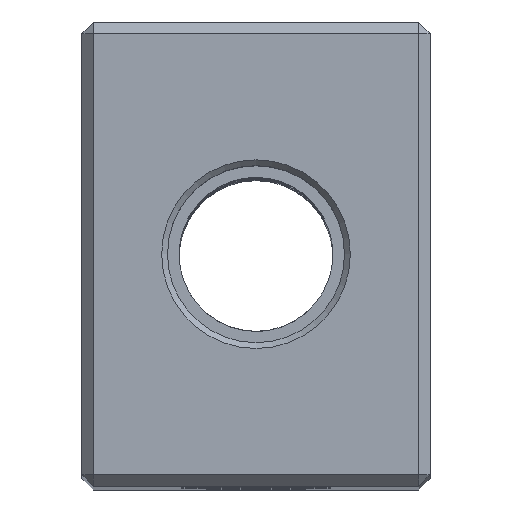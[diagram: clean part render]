
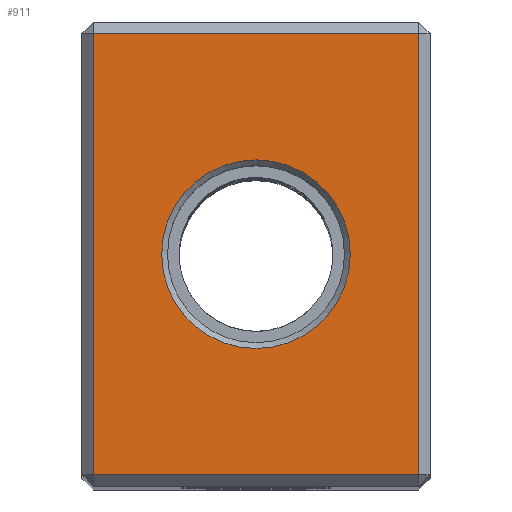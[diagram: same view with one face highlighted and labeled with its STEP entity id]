
A CAD part, top view. The second image highlights one B-rep face of the part: STEP entity #911.
In plain terms, the highlighted planar face has unit normal (0, 0, 1).
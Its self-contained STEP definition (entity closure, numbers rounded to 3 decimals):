
#60=FACE_BOUND('',#183,.T.);
#80=PLANE('',#1008);
#120=FACE_OUTER_BOUND('',#182,.T.);
#182=EDGE_LOOP('',(#714,#715,#716,#717));
#183=EDGE_LOOP('',(#718));
#258=LINE('',#1732,#328);
#259=LINE('',#1734,#329);
#260=LINE('',#1736,#330);
#261=LINE('',#1737,#331);
#328=VECTOR('',#1165,10.);
#329=VECTOR('',#1166,10.);
#330=VECTOR('',#1167,10.);
#331=VECTOR('',#1168,10.);
#394=CIRCLE('',#1005,8.125);
#455=VERTEX_POINT('',#1722);
#458=VERTEX_POINT('',#1730);
#459=VERTEX_POINT('',#1731);
#460=VERTEX_POINT('',#1733);
#461=VERTEX_POINT('',#1735);
#550=EDGE_CURVE('',#455,#455,#394,.T.);
#554=EDGE_CURVE('',#458,#459,#258,.T.);
#555=EDGE_CURVE('',#460,#458,#259,.T.);
#556=EDGE_CURVE('',#461,#460,#260,.T.);
#557=EDGE_CURVE('',#459,#461,#261,.T.);
#714=ORIENTED_EDGE('',*,*,#554,.F.);
#715=ORIENTED_EDGE('',*,*,#555,.F.);
#716=ORIENTED_EDGE('',*,*,#556,.F.);
#717=ORIENTED_EDGE('',*,*,#557,.F.);
#718=ORIENTED_EDGE('',*,*,#550,.F.);
#911=ADVANCED_FACE('',(#120,#60),#80,.T.);
#1005=AXIS2_PLACEMENT_3D('',#1723,#1156,#1157);
#1008=AXIS2_PLACEMENT_3D('',#1729,#1163,#1164);
#1156=DIRECTION('center_axis',(0.,0.,1.));
#1157=DIRECTION('ref_axis',(-1.,0.,0.));
#1163=DIRECTION('center_axis',(0.,0.,1.));
#1164=DIRECTION('ref_axis',(1.,0.,0.));
#1165=DIRECTION('',(1.,0.,0.));
#1166=DIRECTION('',(0.,1.,0.));
#1167=DIRECTION('',(-1.,0.,0.));
#1168=DIRECTION('',(0.,-1.,0.));
#1722=CARTESIAN_POINT('',(8.125,0.,90.));
#1723=CARTESIAN_POINT('Origin',(0.,0.,90.));
#1729=CARTESIAN_POINT('Origin',(0.,0.,
90.));
#1730=CARTESIAN_POINT('',(-14.,19.,90.));
#1731=CARTESIAN_POINT('',(14.,19.,90.));
#1732=CARTESIAN_POINT('',(7.5,19.,90.));
#1733=CARTESIAN_POINT('',(-14.,-19.,90.));
#1734=CARTESIAN_POINT('',(-14.,10.,90.));
#1735=CARTESIAN_POINT('',(14.,-19.,90.));
#1736=CARTESIAN_POINT('',(-7.5,-19.,90.));
#1737=CARTESIAN_POINT('',(14.,-10.,90.));
